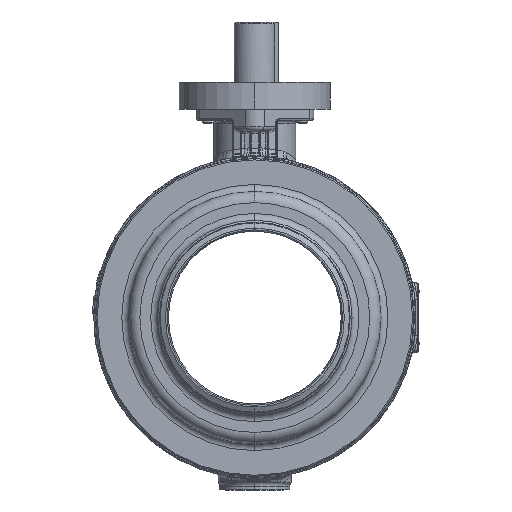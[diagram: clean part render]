
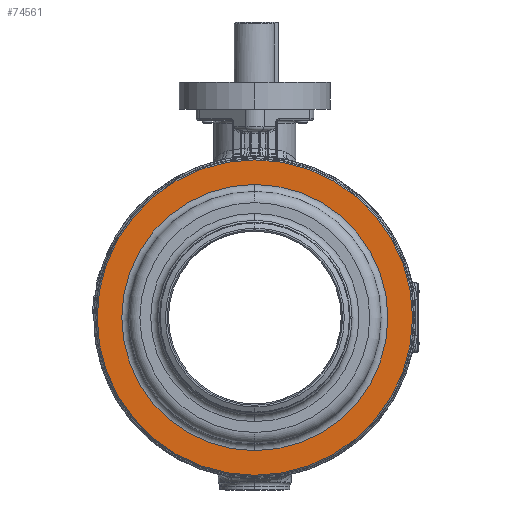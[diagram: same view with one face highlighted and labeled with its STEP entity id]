
A CAD part, left-side view. The second image highlights one B-rep face of the part: STEP entity #74561.
In plain terms, the highlighted planar face has unit normal (-1, 0, 0).
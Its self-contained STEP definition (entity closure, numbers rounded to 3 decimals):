
#22239=CARTESIAN_POINT('',(-119.5,0.,0.));
#22240=DIRECTION('',(-1.,0.,0.));
#22241=DIRECTION('',(0.,0.,1.));
#22242=AXIS2_PLACEMENT_3D('',#22239,#22240,#22241);
#22244=CARTESIAN_POINT('',(-119.5,0.,0.));
#22245=DIRECTION('',(-1.,0.,0.));
#22246=DIRECTION('',(0.,0.,-1.));
#22247=AXIS2_PLACEMENT_3D('',#22244,#22245,#22246);
#22249=CARTESIAN_POINT('',(-119.5,0.,0.));
#22250=DIRECTION('',(1.,0.,0.));
#22251=DIRECTION('',(0.,0.,-1.));
#22252=AXIS2_PLACEMENT_3D('',#22249,#22250,#22251);
#22254=CARTESIAN_POINT('',(-119.5,0.,0.));
#22255=DIRECTION('',(1.,0.,0.));
#22256=DIRECTION('',(0.,0.,1.));
#22257=AXIS2_PLACEMENT_3D('',#22254,#22255,#22256);
#32887=CARTESIAN_POINT('',(-119.5,0.,182.5));
#32889=VERTEX_POINT('',#32887);
#32891=CARTESIAN_POINT('',(-119.5,0.,-182.5));
#32893=VERTEX_POINT('',#32891);
#32899=CARTESIAN_POINT('',(-119.5,0.,-154.));
#32900=CARTESIAN_POINT('',(-119.5,0.,154.));
#32901=VERTEX_POINT('',#32899);
#32902=VERTEX_POINT('',#32900);
#74546=CARTESIAN_POINT('',(-119.5,0.,0.));
#74547=DIRECTION('',(-1.,0.,0.));
#74548=DIRECTION('',(0.,0.,1.));
#74549=AXIS2_PLACEMENT_3D('',#74546,#74547,#74548);
#74550=PLANE('',#74549);
#74552=ORIENTED_EDGE('',*,*,#74551,.F.);
#74554=ORIENTED_EDGE('',*,*,#74553,.F.);
#74555=EDGE_LOOP('',(#74552,#74554));
#74556=FACE_OUTER_BOUND('',#74555,.F.);
#74557=ORIENTED_EDGE('',*,*,#74526,.F.);
#74558=ORIENTED_EDGE('',*,*,#74540,.F.);
#74559=EDGE_LOOP('',(#74557,#74558));
#74560=FACE_BOUND('',#74559,.F.);
#74561=ADVANCED_FACE('',(#74556,#74560),#74550,.T.);
#22243=CIRCLE('',#22242,182.5);
#22248=CIRCLE('',#22247,182.5);
#22253=CIRCLE('',#22252,154.);
#22258=CIRCLE('',#22257,154.);
#74526=EDGE_CURVE('',#32901,#32902,#22253,.T.);
#74540=EDGE_CURVE('',#32902,#32901,#22258,.T.);
#74551=EDGE_CURVE('',#32889,#32893,#22243,.T.);
#74553=EDGE_CURVE('',#32893,#32889,#22248,.T.);
